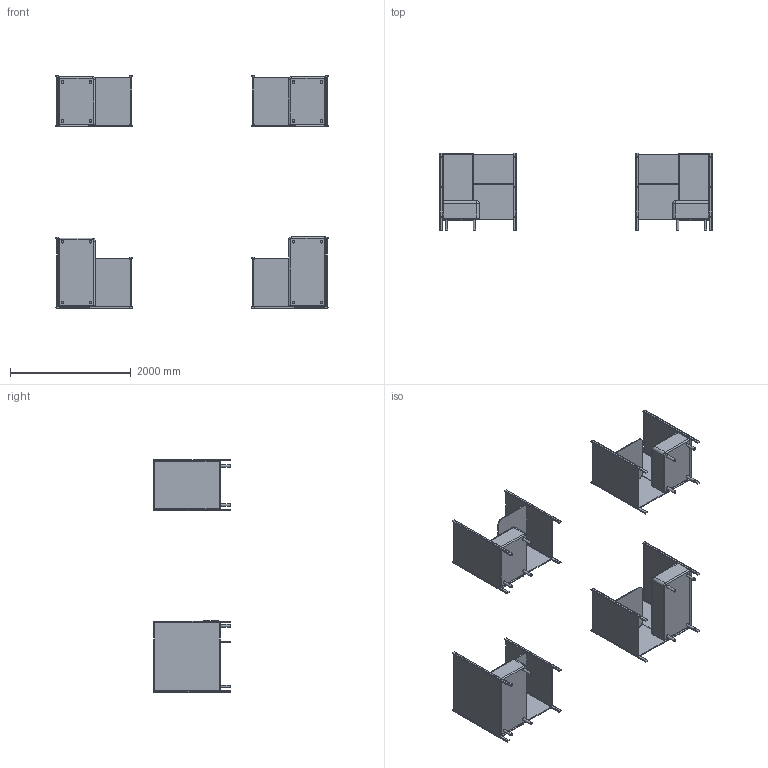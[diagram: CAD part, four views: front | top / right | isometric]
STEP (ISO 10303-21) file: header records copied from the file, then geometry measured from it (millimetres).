
FILE_DESCRIPTION(/* description */ (''),/* implementation_level */ '2;1');
FILE_NAME(/* name */ 'INTUIT_TAKT_modules_3D.step',/* time_stamp */ '2026-06-11T10:56:27+03:00',/* author */ (''),/* organization */ (''),/* preprocessor_version */ 'ST-DEVELOPER v20.1',/* originating_system */ 'Autodesk Translation Framework v15.8.0.0',/* authorisation */ '');
FILE_SCHEMA (('AUTOMOTIVE_DESIGN { 1 0 10303 214 3 1 1 }'));
Length unit declared in the file: millimetre
Products named in the file (5): TAKT Modules 3D; TAKT 1.5SR; TAKT 1.5SL; TAKT 1SL; TAKT 1SR
Assembly tree (4 placements, depth 2):
  TAKT Modules 3D
    TAKT 1.5SR
    TAKT 1.5SL
    TAKT 1SL
    TAKT 1SR
Bounding box: 4500 x 1270 x 3849 mm (x, y, z)
Volume: 1076539985 mm3; surface area: 40421740.4 mm2
Topology: 4 solids, 64 shells, 787 faces, 1711 edges, 1102 vertices
Faces by surface type: plane 426, cylinder 313, torus 28, bspline 12, sphere 8
Full cylindrical faces by diameter (mm): 4 x72, 44 x16
Entity records: 23219 total; most frequent: CARTESIAN_POINT 5176, DIRECTION 3935, ORIENTED_EDGE 3398, EDGE_CURVE 1699, AXIS2_PLACEMENT_3D 1492, VERTEX_POINT 1102, LINE 951, VECTOR 951
